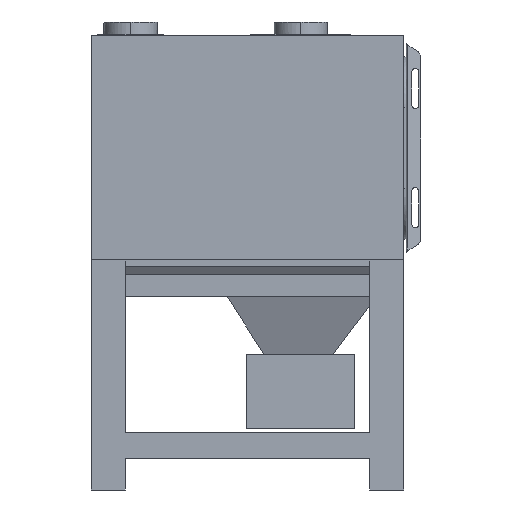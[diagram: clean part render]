
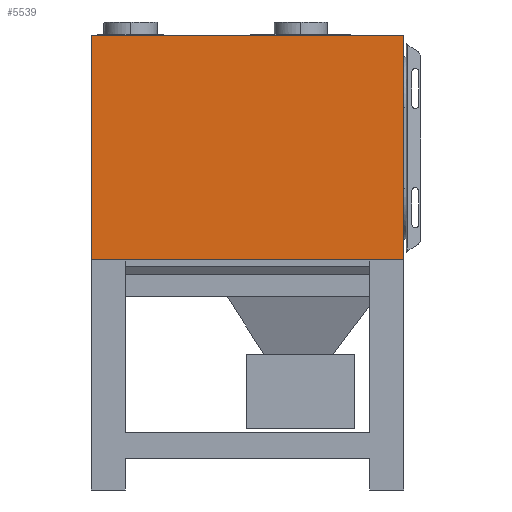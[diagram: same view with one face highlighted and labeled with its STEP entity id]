
A CAD part, left-side view. The second image highlights one B-rep face of the part: STEP entity #5539.
In plain terms, the highlighted free-form (B-spline) face has degree [3, 3] with [4, 4] control points.
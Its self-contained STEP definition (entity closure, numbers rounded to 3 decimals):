
#690=ORIENTED_EDGE('trim curve',*,*,#1309,.T.);
#691=ORIENTED_EDGE('trim curve',*,*,#1089,.F.);
#692=ORIENTED_EDGE('trim curve',*,*,#1031,.T.);
#693=ORIENTED_EDGE('trim curve',*,*,#1092,.F.);
#694=ORIENTED_EDGE('trim curve',*,*,#1310,.T.);
#695=ORIENTED_EDGE('trim curve',*,*,#1311,.T.);
#790=VERTEX_POINT('Trimming Point',#2392);
#791=VERTEX_POINT('Trimming Point',#2396);
#828=VERTEX_POINT('Trimming Point',#2839);
#829=VERTEX_POINT('Trimming Point',#2847);
#962=VERTEX_POINT('Trimming Point',#5204);
#963=VERTEX_POINT('Trimming Point',#5211);
#1031=EDGE_CURVE('Edge Curve',#791,#790,#1381,.T.);
#1089=EDGE_CURVE('Edge Curve',#791,#828,#1439,.T.);
#1092=EDGE_CURVE('Edge Curve',#829,#790,#1442,.T.);
#1309=EDGE_CURVE('Edge Curve',#962,#828,#1659,.T.);
#1310=EDGE_CURVE('Edge Curve',#829,#963,#1660,.T.);
#1311=EDGE_CURVE('Edge Curve',#963,#962,#1661,.T.);
#1381=(
BOUNDED_CURVE()
B_SPLINE_CURVE(3,(#2396,#2397,#2398,#2399),.UNSPECIFIED.,.U.,.U.)
B_SPLINE_CURVE_WITH_KNOTS((4,4),(0.,1.),.UNSPECIFIED.)
CURVE()
GEOMETRIC_REPRESENTATION_ITEM()
RATIONAL_B_SPLINE_CURVE((1.,1.,1.,1.))
REPRESENTATION_ITEM('node')
);
#1439=(
BOUNDED_CURVE()
B_SPLINE_CURVE(3,(#2836,#2837,#2838,#2839),.UNSPECIFIED.,.U.,.U.)
B_SPLINE_CURVE_WITH_KNOTS((4,4),(0.891,1.),.UNSPECIFIED.)
CURVE()
GEOMETRIC_REPRESENTATION_ITEM()
RATIONAL_B_SPLINE_CURVE((1.,1.,1.,1.))
REPRESENTATION_ITEM('node')
);
#1442=(
BOUNDED_CURVE()
B_SPLINE_CURVE(3,(#2848,#2849,#2850,#2851),.UNSPECIFIED.,.U.,.U.)
B_SPLINE_CURVE_WITH_KNOTS((4,4),(0.,0.109),.UNSPECIFIED.)
CURVE()
GEOMETRIC_REPRESENTATION_ITEM()
RATIONAL_B_SPLINE_CURVE((1.,1.,1.,1.))
REPRESENTATION_ITEM('node')
);
#1659=(
BOUNDED_CURVE()
B_SPLINE_CURVE(3,(#5204,#5205,#5206,#5207),.UNSPECIFIED.,.U.,.U.)
B_SPLINE_CURVE_WITH_KNOTS((4,4),(0.,1.),.UNSPECIFIED.)
CURVE()
GEOMETRIC_REPRESENTATION_ITEM()
RATIONAL_B_SPLINE_CURVE((1.,1.,1.,1.))
REPRESENTATION_ITEM('node')
);
#1660=(
BOUNDED_CURVE()
B_SPLINE_CURVE(3,(#5208,#5209,#5210,#5211),.UNSPECIFIED.,.U.,.U.)
B_SPLINE_CURVE_WITH_KNOTS((4,4),(0.,1.),.UNSPECIFIED.)
CURVE()
GEOMETRIC_REPRESENTATION_ITEM()
RATIONAL_B_SPLINE_CURVE((1.,1.,1.,1.))
REPRESENTATION_ITEM('node')
);
#1661=(
BOUNDED_CURVE()
B_SPLINE_CURVE(3,(#5212,#5213,#5214,#5215),.UNSPECIFIED.,.U.,.U.)
B_SPLINE_CURVE_WITH_KNOTS((4,4),(0.,1.),.UNSPECIFIED.)
CURVE()
GEOMETRIC_REPRESENTATION_ITEM()
RATIONAL_B_SPLINE_CURVE((1.,1.,1.,1.))
REPRESENTATION_ITEM('node')
);
#1799=EDGE_LOOP('trim boundary',(#690,#691,#692,#693,#694,#695));
#1931=FACE_OUTER_BOUND('Boundary Edges',#1799,.T.);
#2392=CARTESIAN_POINT('CVs',(-1271.22,-575.,1081.395));
#2396=CARTESIAN_POINT('CVs',(-1271.22,575.,1081.395));
#2397=CARTESIAN_POINT('CVs',(-1271.22,191.667,1081.395));
#2398=CARTESIAN_POINT('CVs',(-1271.22,-191.667,1081.395));
#2399=CARTESIAN_POINT('CVs',(-1271.22,-575.,1081.395));
#2836=CARTESIAN_POINT('CVs',(-1271.22,575.,1081.395));
#2837=CARTESIAN_POINT('CVs',(-1271.22,628.333,1081.395));
#2838=CARTESIAN_POINT('CVs',(-1271.22,681.667,1081.395));
#2839=CARTESIAN_POINT('CVs',(-1271.22,735.,1081.395));
#2847=CARTESIAN_POINT('CVs',(-1271.22,-735.,1081.395));
#2848=CARTESIAN_POINT('CVs',(-1271.22,-735.,1081.395));
#2849=CARTESIAN_POINT('CVs',(-1271.22,-681.667,1081.395));
#2850=CARTESIAN_POINT('CVs',(-1271.22,-628.333,1081.395));
#2851=CARTESIAN_POINT('CVs',(-1271.22,-575.,1081.395));
#5188=CARTESIAN_POINT('CVs',(-1271.22,735.,2135.467));
#5189=CARTESIAN_POINT('CVs',(-1271.22,245.,2135.467));
#5190=CARTESIAN_POINT('CVs',(-1271.22,-245.,2135.467));
#5191=CARTESIAN_POINT('CVs',(-1271.22,-735.,2135.467));
#5192=CARTESIAN_POINT('CVs',(-1271.22,735.,1784.11));
#5193=CARTESIAN_POINT('CVs',(-1271.22,245.,1784.11));
#5194=CARTESIAN_POINT('CVs',(-1271.22,-245.,1784.11));
#5195=CARTESIAN_POINT('CVs',(-1271.22,-735.,1784.11));
#5196=CARTESIAN_POINT('CVs',(-1271.22,735.,1432.753));
#5197=CARTESIAN_POINT('CVs',(-1271.22,245.,1432.753));
#5198=CARTESIAN_POINT('CVs',(-1271.22,-245.,1432.753));
#5199=CARTESIAN_POINT('CVs',(-1271.22,-735.,1432.753));
#5200=CARTESIAN_POINT('CVs',(-1271.22,735.,1081.395));
#5201=CARTESIAN_POINT('CVs',(-1271.22,245.,1081.395));
#5202=CARTESIAN_POINT('CVs',(-1271.22,-245.,1081.395));
#5203=CARTESIAN_POINT('CVs',(-1271.22,-735.,1081.395));
#5204=CARTESIAN_POINT('CVs',(-1271.22,735.,2135.467));
#5205=CARTESIAN_POINT('CVs',(-1271.22,735.,1784.11));
#5206=CARTESIAN_POINT('CVs',(-1271.22,735.,1432.753));
#5207=CARTESIAN_POINT('CVs',(-1271.22,735.,1081.395));
#5208=CARTESIAN_POINT('CVs',(-1271.22,-735.,1081.395));
#5209=CARTESIAN_POINT('CVs',(-1271.22,-735.,1432.753));
#5210=CARTESIAN_POINT('CVs',(-1271.22,-735.,1784.11));
#5211=CARTESIAN_POINT('CVs',(-1271.22,-735.,2135.467));
#5212=CARTESIAN_POINT('CVs',(-1271.22,-735.,2135.467));
#5213=CARTESIAN_POINT('CVs',(-1271.22,-245.,2135.467));
#5214=CARTESIAN_POINT('CVs',(-1271.22,245.,2135.467));
#5215=CARTESIAN_POINT('CVs',(-1271.22,735.,2135.467));
#5411=(
BOUNDED_SURFACE()
B_SPLINE_SURFACE(3,3,((#5188,#5189,#5190,#5191),(#5192,#5193,#5194,#5195),
(#5196,#5197,#5198,#5199),(#5200,#5201,#5202,#5203)),.UNSPECIFIED.,.U.,.U.,
 .U.)
B_SPLINE_SURFACE_WITH_KNOTS((4,4),(4,4),(0.,1.),(0.,1.),.UNSPECIFIED.)
GEOMETRIC_REPRESENTATION_ITEM()
RATIONAL_B_SPLINE_SURFACE(((1.,1.,1.,1.),(1.,1.,1.,1.),(1.,1.,1.,1.),(1.,
1.,1.,1.)))
REPRESENTATION_ITEM('trim region')
SURFACE()
);
#5539=ADVANCED_FACE('trim region',(#1931),#5411,.T.);
